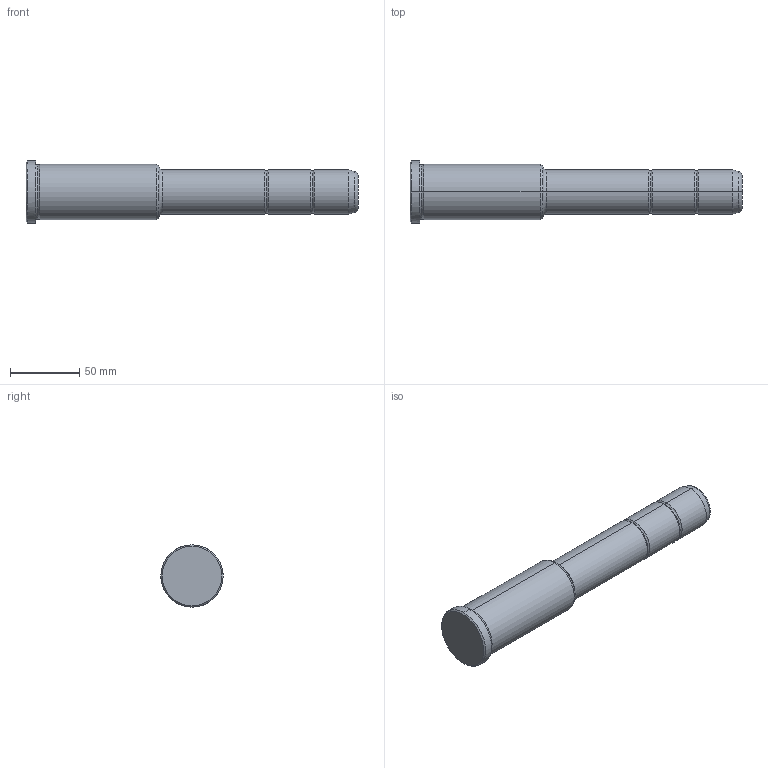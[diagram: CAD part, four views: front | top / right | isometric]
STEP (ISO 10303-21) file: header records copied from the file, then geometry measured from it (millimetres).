
FILE_DESCRIPTION(('CATIA V5 STEP Exchange'),'2;1');
FILE_NAME('C:\Users\Utente\Desktop\IO LAVORO\3D X SITO CF\X SITO\PLASTICA\351\351-32X96X240.stp','2021-09-10T12:19:18+00:00',('none'),('none'),'CATIA Version 5 Release 20 GA (IN-10)','CATIA V5 STEP AP203','none');
FILE_SCHEMA(('CONFIG_CONTROL_DESIGN'));
Length unit declared in the file: millimetre
Products named in the file (1): 351-32X96X240
Bounding box: 240 x 45 x 45 mm (x, y, z)
Volume: 237580.1 mm3; surface area: 29401.7 mm2
Topology: 1 solids, 1 shells, 36 faces, 102 edges, 70 vertices
Faces by surface type: torus 16, cylinder 10, cone 6, plane 4
Entity records: 1292 total; most frequent: CARTESIAN_POINT 321, ORIENTED_EDGE 204, DIRECTION 166, AXIS2_PLACEMENT_3D 115, EDGE_CURVE 102, CIRCLE 78, VERTEX_POINT 70, EDGE_LOOP 38
